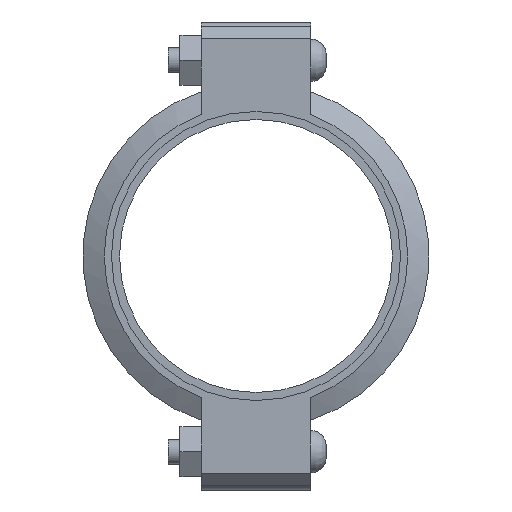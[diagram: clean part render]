
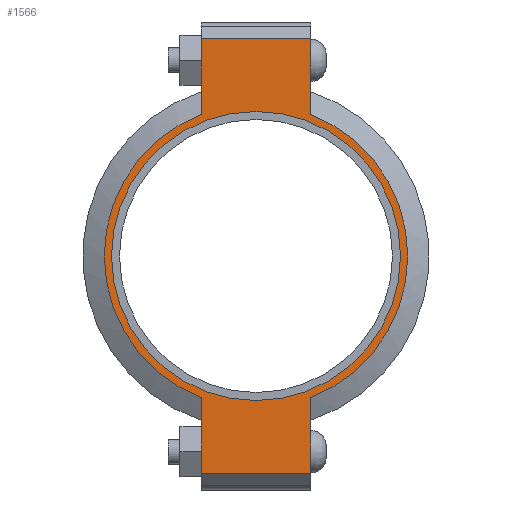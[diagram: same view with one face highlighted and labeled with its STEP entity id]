
A CAD part, left-side view. The second image highlights one B-rep face of the part: STEP entity #1566.
In plain terms, the highlighted planar face has unit normal (-1, 0, 0) as drawn and (0, 0, 1) by its records, which use the part's own axes.
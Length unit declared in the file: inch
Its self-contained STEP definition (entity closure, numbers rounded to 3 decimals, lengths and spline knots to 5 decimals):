
#190=LINE('',#2724,#283);
#198=LINE('',#2760,#291);
#205=LINE('',#2781,#298);
#214=LINE('',#2813,#307);
#215=LINE('',#2817,#308);
#216=LINE('',#2819,#309);
#283=VECTOR('',#2216,0.3937);
#291=VECTOR('',#2232,0.3937);
#298=VECTOR('',#2251,0.3937);
#307=VECTOR('',#2276,0.3937);
#308=VECTOR('',#2281,0.3937);
#309=VECTOR('',#2282,0.3937);
#365=FACE_BOUND('',#543,.T.);
#437=FACE_OUTER_BOUND('',#542,.T.);
#542=EDGE_LOOP('',(#1307,#1308,#1309,#1310,#1311,#1312,#1313,#1314));
#543=EDGE_LOOP('',(#1315));
#615=CIRCLE('',#1776,4.3125);
#641=CIRCLE('',#1835,4.53);
#642=CIRCLE('',#1836,4.53);
#707=VERTEX_POINT('',#2540);
#750=VERTEX_POINT('',#2721);
#751=VERTEX_POINT('',#2723);
#762=VERTEX_POINT('',#2755);
#763=VERTEX_POINT('',#2759);
#770=VERTEX_POINT('',#2778);
#771=VERTEX_POINT('',#2780);
#781=VERTEX_POINT('',#2816);
#782=VERTEX_POINT('',#2818);
#863=EDGE_CURVE('',#707,#707,#615,.T.);
#924=EDGE_CURVE('',#751,#750,#190,.T.);
#938=EDGE_CURVE('',#763,#762,#198,.T.);
#948=EDGE_CURVE('',#771,#770,#205,.T.);
#963=EDGE_CURVE('',#763,#750,#214,.T.);
#964=EDGE_CURVE('',#762,#771,#641,.T.);
#965=EDGE_CURVE('',#781,#770,#215,.T.);
#966=EDGE_CURVE('',#781,#782,#216,.T.);
#967=EDGE_CURVE('',#782,#751,#642,.T.);
#1307=ORIENTED_EDGE('',*,*,#963,.F.);
#1308=ORIENTED_EDGE('',*,*,#938,.T.);
#1309=ORIENTED_EDGE('',*,*,#964,.T.);
#1310=ORIENTED_EDGE('',*,*,#948,.T.);
#1311=ORIENTED_EDGE('',*,*,#965,.F.);
#1312=ORIENTED_EDGE('',*,*,#966,.T.);
#1313=ORIENTED_EDGE('',*,*,#967,.T.);
#1314=ORIENTED_EDGE('',*,*,#924,.T.);
#1315=ORIENTED_EDGE('',*,*,#863,.T.);
#1408=PLANE('',#1834);
#1566=ADVANCED_FACE('',(#437,#365),#1408,.T.);
#1776=AXIS2_PLACEMENT_3D('',#2542,#2092,#2093);
#1834=AXIS2_PLACEMENT_3D('',#2814,#2277,#2278);
#1835=AXIS2_PLACEMENT_3D('',#2815,#2279,#2280);
#1836=AXIS2_PLACEMENT_3D('',#2820,#2283,#2284);
#2092=DIRECTION('center_axis',(0.,0.,-1.));
#2093=DIRECTION('ref_axis',(-1.,0.,0.));
#2216=DIRECTION('',(-1.,0.,0.));
#2232=DIRECTION('',(1.,0.,0.));
#2251=DIRECTION('',(1.,0.,0.));
#2276=DIRECTION('',(0.,1.,0.));
#2277=DIRECTION('center_axis',(0.,0.,1.));
#2278=DIRECTION('ref_axis',(1.,0.,0.));
#2279=DIRECTION('center_axis',(0.,0.,1.));
#2280=DIRECTION('ref_axis',(-1.,0.,0.));
#2281=DIRECTION('',(0.,-1.,0.));
#2282=DIRECTION('',(-1.,0.,0.));
#2283=DIRECTION('center_axis',(0.,0.,1.));
#2284=DIRECTION('ref_axis',(-1.,0.,0.));
#2540=CARTESIAN_POINT('',(4.3125,0.,1.16));
#2542=CARTESIAN_POINT('Origin',(0.,0.,1.16));
#2721=CARTESIAN_POINT('',(-6.485,1.63,1.16));
#2723=CARTESIAN_POINT('',(-4.22658,1.63,1.16));
#2724=CARTESIAN_POINT('',(-6.985,1.63,1.16));
#2755=CARTESIAN_POINT('',(-4.22658,-1.63,1.16));
#2759=CARTESIAN_POINT('',(-6.485,-1.63,1.16));
#2760=CARTESIAN_POINT('',(6.985,-1.63,1.16));
#2778=CARTESIAN_POINT('',(6.485,-1.63,1.16));
#2780=CARTESIAN_POINT('',(4.22658,-1.63,1.16));
#2781=CARTESIAN_POINT('',(6.985,-1.63,1.16));
#2813=CARTESIAN_POINT('',(-6.485,0.815,1.16));
#2814=CARTESIAN_POINT('Origin',(0.,0.,
1.16));
#2815=CARTESIAN_POINT('Origin',(0.,0.,1.16));
#2816=CARTESIAN_POINT('',(6.485,1.63,1.16));
#2817=CARTESIAN_POINT('',(6.485,-0.815,1.16));
#2818=CARTESIAN_POINT('',(4.22658,1.63,1.16));
#2819=CARTESIAN_POINT('',(-6.985,1.63,1.16));
#2820=CARTESIAN_POINT('Origin',(0.,0.,1.16));
